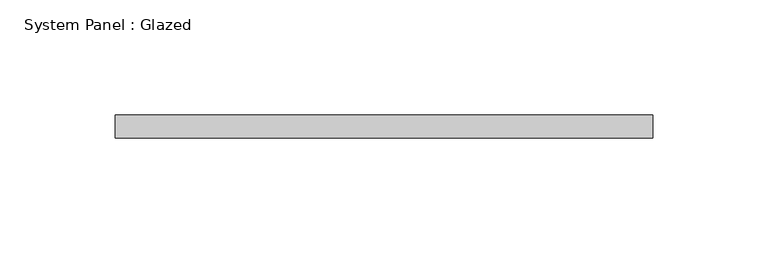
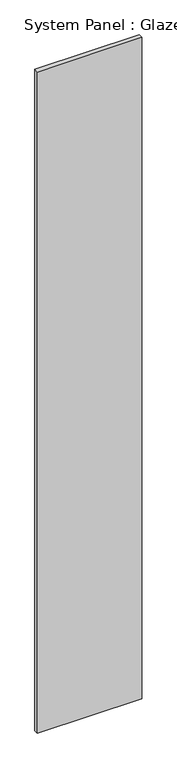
"""IFC4 building model written with IfcOpenShell, lengths in millimetres: plate geometry, System Panel : Glazed."""

from ifc_helpers import new_model, si_unit, origin, origin_with_axes, place, context, project, spatial, polyline, outline, extrude, source, transform, mapped, element, save


def system_panel_glazed_d2b3f3fe(model_context):
    return source(origin(), model_context, "Body", "SweptSolid", [
        extrude(outline(polyline([(116.5, -5.0), (-116.5, -5.0), (-116.5, 5.0), (116.5, 5.0), (116.5, -5.0)])), origin_with_axes(), (0.0, 0.0, 1.0), 1561.0),
    ])


if __name__ == "__main__":
    model = new_model("IFC4")
    model_context = context("Model", 3, world=origin())
    ifc_project = project(units=[si_unit("LENGTHUNIT", "METRE", prefix="MILLI")], contexts=[model_context])
    site = spatial("IfcSite", under=ifc_project)
    building = spatial("IfcBuilding", under=site)
    placement = place(None, origin())
    system_panel_glazed_shape = system_panel_glazed_d2b3f3fe(model_context)
    element("IfcPlate", 1, ObjectType="System Panel : Glazed", at=placement, inside=building, context=model_context, shape_type="MappedRepresentation", body=[
        mapped(system_panel_glazed_shape, transform((0.0, 0.0, 0.0), x_axis=(1.0, 0.0, 0.0), y_axis=(0.0, 1.0, 0.0), z_axis=(0.0, 0.0, 1.0))),
    ])
    save(model, "model.ifc")
